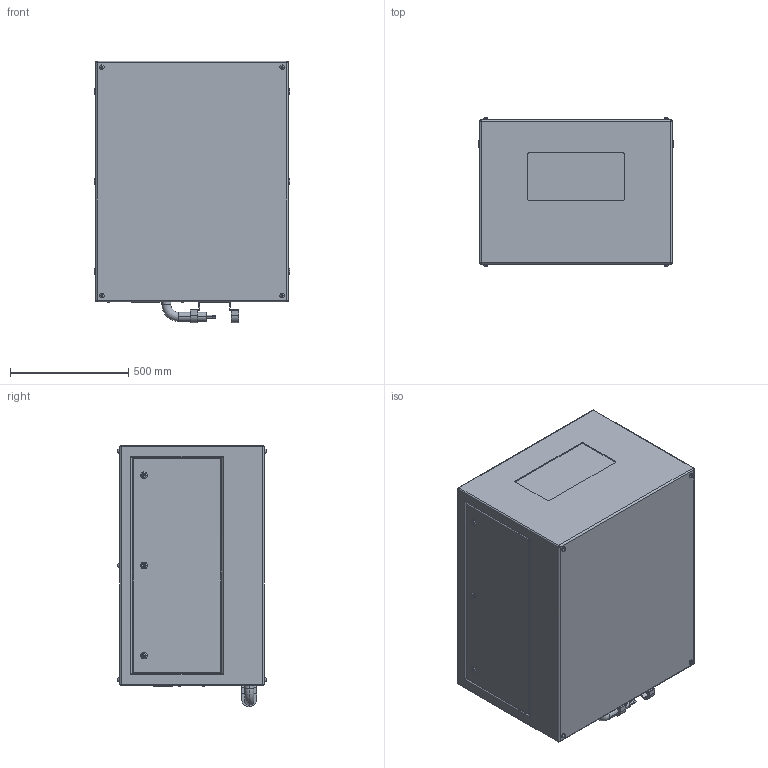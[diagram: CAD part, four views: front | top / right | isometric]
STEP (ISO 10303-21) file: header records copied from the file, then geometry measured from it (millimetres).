
FILE_DESCRIPTION (( 'STEP AP214' ), '1' );
FILE_NAME ('Oasis 59.204.L R02.STEP', '2022-08-27T16:03:53', ( '' ), ( '' ), 'SwSTEP 2.0', 'SolidWorks 2020', '' );
FILE_SCHEMA (( 'AUTOMOTIVE_DESIGN' ));
Length unit declared in the file: inch
Products named in the file (1): Oasis 59.204.L R02
Bounding box: 825.5 x 626.87 x 1104.9 mm (x, y, z)
Volume: 502854249.9 mm3; surface area: 4234649.3 mm2
Topology: 2 solids, 8 shells, 495 faces, 1131 edges, 716 vertices
Faces by surface type: plane 271, cylinder 170, torus 46, bspline 8
Entity records: 18948 total; most frequent: CARTESIAN_POINT 2855, DIRECTION 2463, ORIENTED_EDGE 2246, EDGE_CURVE 1123, AXIS2_PLACEMENT_3D 884, VERTEX_POINT 716, LINE 695, VECTOR 695
